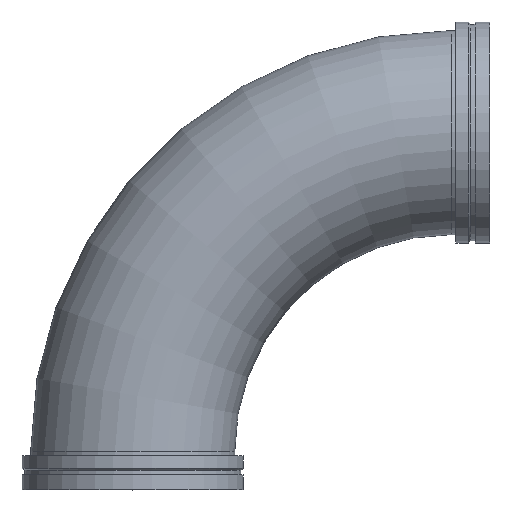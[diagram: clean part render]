
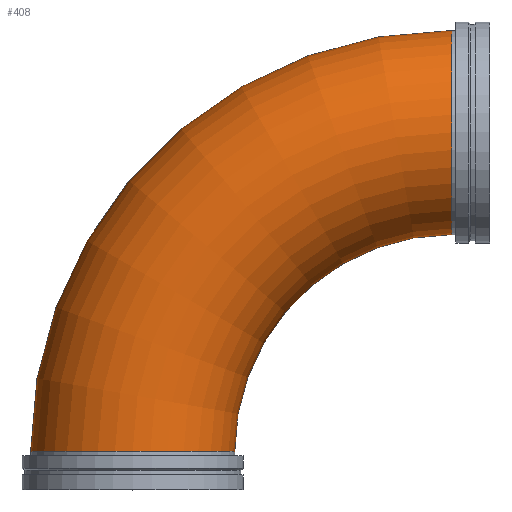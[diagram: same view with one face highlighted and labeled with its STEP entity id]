
A CAD part, top view. The second image highlights one B-rep face of the part: STEP entity #408.
In plain terms, the highlighted toroidal (fillet/blend) face has major radius 952.5 mm and minor radius 304.8 mm.
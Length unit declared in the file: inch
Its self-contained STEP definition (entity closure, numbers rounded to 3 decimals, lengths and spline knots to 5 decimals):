
#46=TOROIDAL_SURFACE('',#484,37.5,12.);
#105=FACE_OUTER_BOUND('',#129,.T.);
#129=EDGE_LOOP('',(#346,#347,#348,#349,#350,#351));
#169=CIRCLE('',#482,12.);
#170=CIRCLE('',#483,12.);
#171=CIRCLE('',#485,25.5);
#172=CIRCLE('',#486,12.);
#173=CIRCLE('',#487,12.);
#207=VERTEX_POINT('',#756);
#208=VERTEX_POINT('',#758);
#209=VERTEX_POINT('',#762);
#210=VERTEX_POINT('',#764);
#256=EDGE_CURVE('',#207,#208,#169,.T.);
#257=EDGE_CURVE('',#208,#207,#170,.T.);
#258=EDGE_CURVE('',#208,#209,#171,.T.);
#259=EDGE_CURVE('',#209,#210,#172,.T.);
#260=EDGE_CURVE('',#210,#209,#173,.T.);
#346=ORIENTED_EDGE('',*,*,#256,.F.);
#347=ORIENTED_EDGE('',*,*,#257,.F.);
#348=ORIENTED_EDGE('',*,*,#258,.T.);
#349=ORIENTED_EDGE('',*,*,#259,.T.);
#350=ORIENTED_EDGE('',*,*,#260,.T.);
#351=ORIENTED_EDGE('',*,*,#258,.F.);
#408=ADVANCED_FACE('',(#105),#46,.T.);
#482=AXIS2_PLACEMENT_3D('',#759,#617,#618);
#483=AXIS2_PLACEMENT_3D('',#760,#619,#620);
#484=AXIS2_PLACEMENT_3D('',#761,#621,#622);
#485=AXIS2_PLACEMENT_3D('',#763,#623,#624);
#486=AXIS2_PLACEMENT_3D('',#765,#625,#626);
#487=AXIS2_PLACEMENT_3D('',#766,#627,#628);
#617=DIRECTION('center_axis',(1.,0.,0.));
#618=DIRECTION('ref_axis',(0.,-1.,0.));
#619=DIRECTION('center_axis',(1.,0.,0.));
#620=DIRECTION('ref_axis',(0.,-1.,0.));
#621=DIRECTION('center_axis',(0.,0.,-1.));
#622=DIRECTION('ref_axis',(-1.,0.,0.));
#623=DIRECTION('center_axis',(0.,0.,1.));
#624=DIRECTION('ref_axis',(-1.,0.,0.));
#625=DIRECTION('center_axis',(0.,1.,0.));
#626=DIRECTION('ref_axis',(1.,0.,0.));
#627=DIRECTION('center_axis',(0.,1.,0.));
#628=DIRECTION('ref_axis',(1.,0.,0.));
#756=CARTESIAN_POINT('',(37.5,54.,0.));
#758=CARTESIAN_POINT('',(37.5,30.,0.));
#759=CARTESIAN_POINT('Origin',(37.5,42.,0.));
#760=CARTESIAN_POINT('Origin',(37.5,42.,0.));
#761=CARTESIAN_POINT('Origin',(37.5,4.5,0.));
#762=CARTESIAN_POINT('',(12.,4.5,0.));
#763=CARTESIAN_POINT('Origin',(37.5,4.5,0.));
#764=CARTESIAN_POINT('',(-12.,4.5,0.));
#765=CARTESIAN_POINT('Origin',(0.,4.5,0.));
#766=CARTESIAN_POINT('Origin',(0.,4.5,0.));
